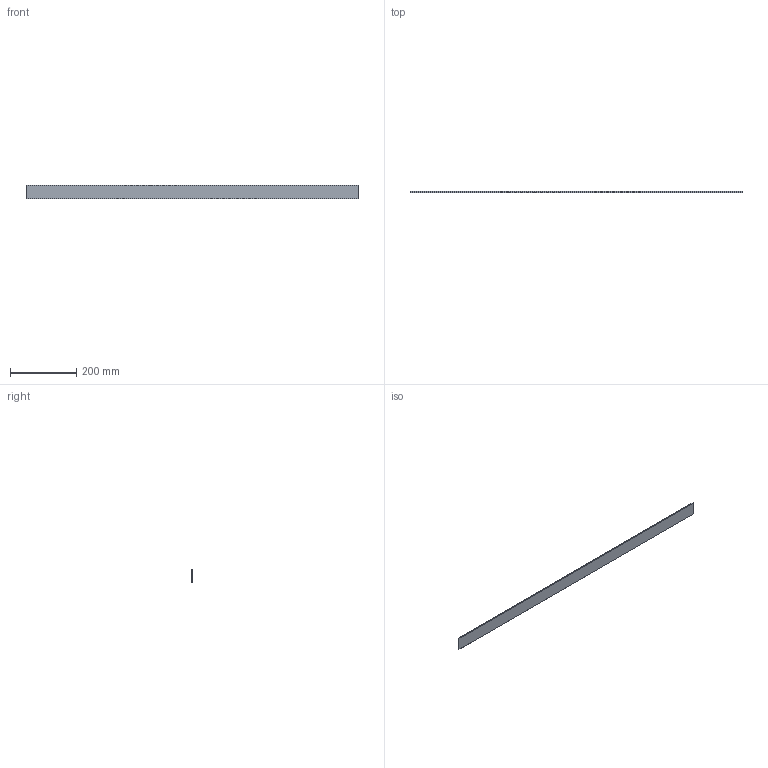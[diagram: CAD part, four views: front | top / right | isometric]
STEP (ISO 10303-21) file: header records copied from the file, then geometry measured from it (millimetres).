
FILE_DESCRIPTION (( 'STEP AP214' ), '1' );
FILE_NAME ('EBSP-3-40.STEP', '2016-01-28T11:45:10', ( '' ), ( '' ), 'SwSTEP 2.0', 'SolidWorks 2012', '' );
FILE_SCHEMA (( 'AUTOMOTIVE_DESIGN' ));
Length unit declared in the file: millimetre
Products named in the file (1): EBSP-3-40
Bounding box: 1000 x 3.2 x 40 mm (x, y, z)
Volume: 128000 mm3; surface area: 166656 mm2
Topology: 2 solids, 2 shells, 12 faces, 24 edges, 16 vertices
Faces by surface type: plane 12
Entity records: 351 total; most frequent: CARTESIAN_POINT 53, DIRECTION 50, ORIENTED_EDGE 48, VECTOR 24, LINE 24, EDGE_CURVE 24, VERTEX_POINT 16, AXIS2_PLACEMENT_3D 13
